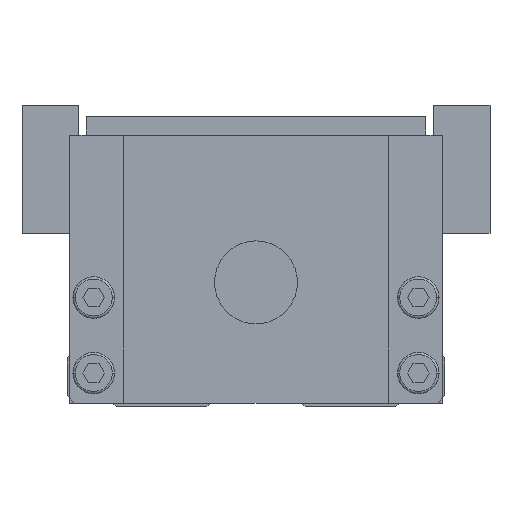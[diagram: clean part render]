
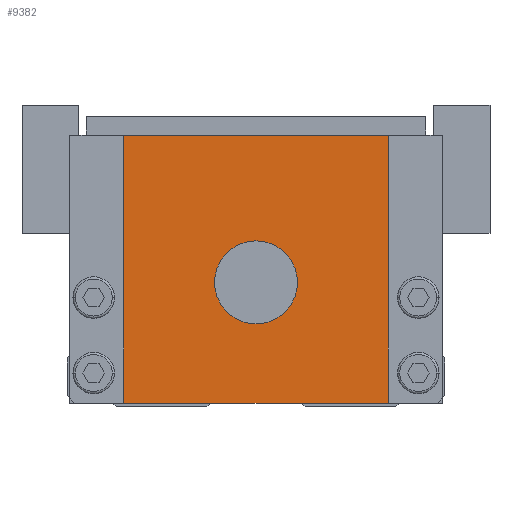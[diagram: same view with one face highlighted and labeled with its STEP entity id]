
A CAD part, front view. The second image highlights one B-rep face of the part: STEP entity #9382.
In plain terms, the highlighted planar face has unit normal (0, -1, 0).
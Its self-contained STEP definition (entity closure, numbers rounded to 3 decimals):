
#4128=VERTEX_POINT('',#12299);
#4358=EDGE_CURVE('',#4128,#10976,#12557,.T.);
#4380=EDGE_CURVE('',#10976,#4128,#12583,.T.);
#5484=EDGE_CURVE('',#11922,#8602,#13801,.T.);
#6344=EDGE_CURVE('',#8602,#11340,#14758,.T.);
#6374=EDGE_CURVE('',#12092,#11340,#14788,.T.);
#8602=VERTEX_POINT('',#17292);
#8742=EDGE_CURVE('',#12092,#11922,#17443,.T.);
#9382=ADVANCED_FACE('',(#18148,#18149),#18150,.F.);
#10976=VERTEX_POINT('',#19940);
#11340=VERTEX_POINT('',#20337);
#11922=VERTEX_POINT('',#20989);
#12092=VERTEX_POINT('',#21175);
#12299=CARTESIAN_POINT('',(-5.5,0.0,16.5));
#12557=CIRCLE('',#21789,5.5);
#12583=CIRCLE('',#21827,5.5);
#13801=LINE('',#23617,#23618);
#14758=LINE('',#24930,#24931);
#14788=LINE('',#24977,#24978);
#17292=CARTESIAN_POINT('',(17.5,0.0,0.5));
#17443=LINE('',#28641,#28642);
#18148=FACE_BOUND('',#29638,.T.);
#18149=FACE_OUTER_BOUND('',#29639,.T.);
#18150=PLANE('',#29640);
#19940=CARTESIAN_POINT('',(5.5,0.0,16.5));
#20337=CARTESIAN_POINT('',(-17.5,0.0,0.5));
#20989=CARTESIAN_POINT('',(17.5,0.0,36.0));
#21175=CARTESIAN_POINT('',(-17.5,0.0,36.0));
#21789=AXIS2_PLACEMENT_3D('',#34753,#34754,#34755);
#21827=AXIS2_PLACEMENT_3D('',#34798,#34799,#34800);
#23617=CARTESIAN_POINT('',(17.5,0.0,18.25));
#23618=VECTOR('',#36162,1.0);
#24930=CARTESIAN_POINT('',(0.0,0.0,0.5));
#24931=VECTOR('',#37294,1.0);
#24977=CARTESIAN_POINT('',(-17.5,0.0,18.25));
#24978=VECTOR('',#37310,1.0);
#28641=CARTESIAN_POINT('',(0.0,0.0,36.0));
#28642=VECTOR('',#40435,1.0);
#29638=EDGE_LOOP('',(#41214,#41215));
#29639=EDGE_LOOP('',(#41216,#41217,#41218,#41219));
#29640=AXIS2_PLACEMENT_3D('',#41220,#41221,#41222);
#34753=CARTESIAN_POINT('',(0.0,0.0,16.5));
#34754=DIRECTION('',(-0.0,1.0,0.0));
#34755=DIRECTION('',(1.0,0.0,0.0));
#34798=CARTESIAN_POINT('',(0.0,0.0,16.5));
#34799=DIRECTION('',(-0.0,1.0,0.0));
#34800=DIRECTION('',(1.0,0.0,0.0));
#36162=DIRECTION('',(0.0,0.0,-1.0));
#37294=DIRECTION('',(-1.0,0.0,0.0));
#37310=DIRECTION('',(0.0,0.0,-1.0));
#40435=DIRECTION('',(1.0,0.0,0.0));
#41214=ORIENTED_EDGE('',*,*,#4380,.T.);
#41215=ORIENTED_EDGE('',*,*,#4358,.T.);
#41216=ORIENTED_EDGE('',*,*,#6374,.T.);
#41217=ORIENTED_EDGE('',*,*,#6344,.F.);
#41218=ORIENTED_EDGE('',*,*,#5484,.F.);
#41219=ORIENTED_EDGE('',*,*,#8742,.F.);
#41220=CARTESIAN_POINT('',(0.0,0.0,18.25));
#41221=DIRECTION('',(0.0,1.0,0.0));
#41222=DIRECTION('',(0.0,0.0,1.0));
